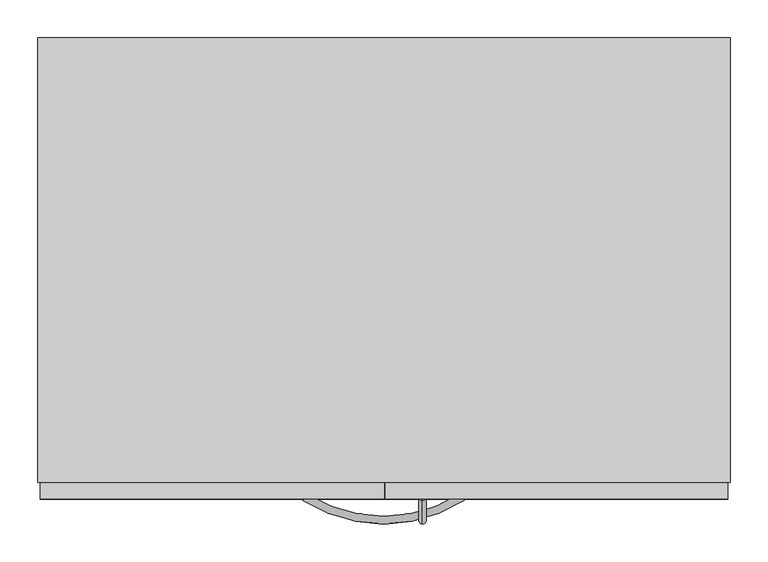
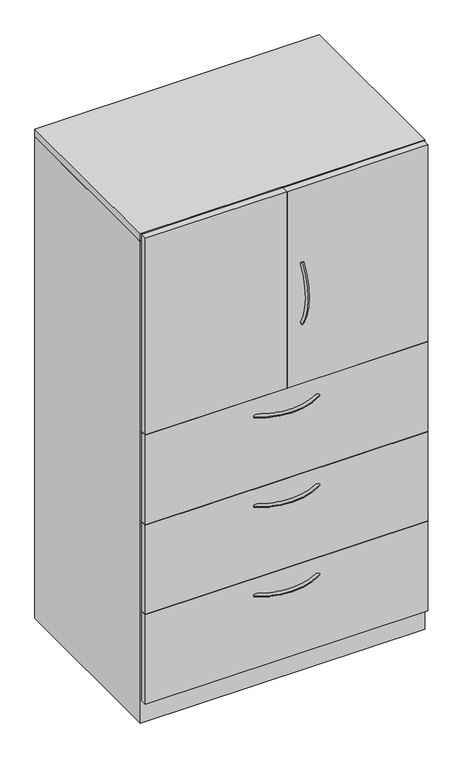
"""IFC4 building model written with IfcOpenShell, lengths in millimetres: furniture geometry, Steelcase - Universal Storage - Cabinet - Combination - Proud Steel : 65 1/2H - Hinged Doors/3 Drawers - 24D x 36W."""

from ifc_helpers import new_model, si_unit, point, frame, origin, place, context, project, spatial, polyline, circle_curve, ellipse_curve, trimmed, outline, extrude, faceted_brep, source, transform, mapped, element, save
from ifc_brep_helpers import plane_surface, revolved_surface, advanced_brep


def furniture_81c67d78(model_context):
    return source(origin(), model_context, "Body", "SolidModel", [
        extrude(outline(polyline([(911.2225413, -479.552), (3.1725353, -479.552), (3.1725353, -457.3261219), (911.2225413, -457.3261219), (911.2225413, -479.552)])), frame((0.0, 0.0, 77.724), z_axis=(0.0, 0.0, 1.0), x_axis=(1.0, 0.0, 0.0)), (0.0, 0.0, 1.0), 303.276),
        extrude(outline(polyline([(911.2225413, -479.552), (3.1725353, -479.552), (3.1725353, -457.3261219), (911.2225413, -457.3261219), (911.2225413, -479.552)])), frame((0.0, 0.0, 382.524), z_axis=(0.0, 0.0, 1.0), x_axis=(1.0, 0.0, 0.0)), (0.0, 0.0, 1.0), 303.276),
        extrude(outline(polyline([(911.2225413, -479.552), (3.1725353, -479.552), (3.1725353, -457.3261219), (911.2225413, -457.3261219), (911.2225413, -479.552)])), frame((0.0, 0.0, 687.3240349), z_axis=(0.0, 0.0, 1.0), x_axis=(1.0, 0.0, 0.0)), (0.0, 0.0, 1.0), 303.2759651),
        extrude(outline(polyline([(457.2, -479.552), (3.1725353, -479.552), (3.1725353, -457.3261219), (457.2, -457.3261219), (457.2, -479.552)])), frame((0.0, 0.0, 992.5062596), z_axis=(0.0, 0.0, 1.0), x_axis=(1.0, 0.0, 0.0)), (0.0, 0.0, 1.0), 668.02),
        extrude(outline(polyline([(911.2225413, -479.552), (458.7239992, -479.552), (458.7239992, -457.3261219), (911.2225413, -457.3261219), (911.2225413, -479.552)])), frame((0.0, 0.0, 992.5062596), z_axis=(0.0, 0.0, 1.0), x_axis=(1.0, 0.0, 0.0)), (0.0, 0.0, 1.0), 668.02),
        advanced_brep(
        [(507.9682496, -481.5705994, 1404.643666), (507.9682496, -473.0108019, 1399.1705073), (507.9682496, -481.1337636, 1192.3367456), (507.9682496, -472.5965612, 1197.8450825)],
        [
            (0, 1, circle_curve(frame((507.9682496, -477.2907007, 1401.9070866), z_axis=(0.0, 0.5386967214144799, 0.842499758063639), x_axis=(0.0, 0.842499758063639, -0.5386967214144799)), 5.08)),
            (1, 0, circle_curve(frame((507.9682496, -477.2907007, 1401.9070866), z_axis=(0.0, 0.5386967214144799, 0.842499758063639), x_axis=(0.0, 0.842499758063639, -0.5386967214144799)), 5.08)),
            (2, 3, circle_curve(frame((507.9682496, -476.8651624, 1195.0909141), z_axis=(0.0, 0.5421591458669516, -0.8402758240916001), x_axis=(0.0, 0.8402758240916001, 0.5421591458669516)), 5.08)),
            (3, 2, circle_curve(frame((507.9682496, -476.8651624, 1195.0909141), z_axis=(0.0, 0.5421591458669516, -0.8402758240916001), x_axis=(0.0, 0.8402758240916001, 0.5421591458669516)), 5.08)),
            (3, 1, circle_curve(frame((507.9682496, -316.0827352, 1298.8302589), z_axis=(-1.0, 0.0, 0.0), x_axis=(0.0, -0.8424997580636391, 0.5386967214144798)), 186.2648211)),
            (0, 2, circle_curve(frame((507.9682496, -316.0827352, 1298.8302589), z_axis=(1.0, 0.0, 0.0), x_axis=(0.0, -0.8424997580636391, 0.5386967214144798)), 196.4248211)),
        ],
        [
            plane_surface(frame((508.7619996, -476.6365286, 1401.4888072), z_axis=(0.0, 0.5386967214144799, 0.8424997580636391), x_axis=(1.0, 0.0, 0.0))),
            plane_surface(frame((508.7619996, -476.2127171, 1195.511882), z_axis=(0.0, 0.5421591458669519, -0.8402758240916), x_axis=(1.0, 0.0, 0.0))),
            revolved_surface(trimmed(ellipse_curve(frame((507.9682496, -477.2907007, 1401.9070866), z_axis=(0.0, 0.5386967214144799, 0.842499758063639), x_axis=(0.0, 0.842499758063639, -0.5386967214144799)), 5.08, 5.08), [point((507.9682496, -481.5705994, 1404.643666))], [point((507.9682496, -473.0108019, 1399.1705073))], True, "CARTESIAN"), (508.7619996, -316.0827352, 1298.8302589), (1.0, 0.0, 0.0)),
            revolved_surface(trimmed(ellipse_curve(frame((507.9682496, -477.2907007, 1401.9070866), z_axis=(0.0, 0.5386967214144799, 0.842499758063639), x_axis=(0.0, 0.842499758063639, -0.5386967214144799)), 5.08, 5.08), [point((507.9682496, -473.0108019, 1399.1705073))], [point((507.9682496, -481.5705994, 1404.643666))], True, "CARTESIAN"), (508.7619996, -316.0827352, 1298.8302589), (1.0, 0.0, 0.0)),
        ],
        [
            (0, [[1, 2]]),
            (1, [[3, 4]]),
            (2, [[5, -1, 6, -4]]),
            (3, [[-6, -2, -5, -3]]),
        ],
    ),
        advanced_brep(
        [(350.6245932, -481.5705994, 323.56425), (356.0977519, -473.0108019, 323.56425), (562.9315136, -481.1337636, 323.56425), (557.4231767, -472.5965612, 323.56425)],
        [
            (0, 1, circle_curve(frame((353.3611726, -477.2907007, 323.56425), z_axis=(-0.8424997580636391, 0.5386967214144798, 0.0), x_axis=(0.5386967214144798, 0.8424997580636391, 0.0)), 5.08)),
            (1, 0, circle_curve(frame((353.3611726, -477.2907007, 323.56425), z_axis=(-0.8424997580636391, 0.5386967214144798, 0.0), x_axis=(0.5386967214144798, 0.8424997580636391, 0.0)), 5.08)),
            (2, 3, circle_curve(frame((560.1773452, -476.8651624, 323.56425), z_axis=(0.8402758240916, 0.5421591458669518, 0.0), x_axis=(-0.5421591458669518, 0.8402758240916, 0.0)), 5.08)),
            (3, 2, circle_curve(frame((560.1773452, -476.8651624, 323.56425), z_axis=(0.8402758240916, 0.5421591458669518, 0.0), x_axis=(-0.5421591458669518, 0.8402758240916, 0.0)), 5.08)),
            (3, 1, circle_curve(frame((456.4380004, -316.0827352, 323.56425), z_axis=(0.0, 0.0, -1.0), x_axis=(-0.5386967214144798, -0.8424997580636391, 0.0)), 186.2648211)),
            (0, 2, circle_curve(frame((456.4380004, -316.0827352, 323.56425), z_axis=(0.0, 0.0, 1.0), x_axis=(-0.5386967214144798, -0.8424997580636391, 0.0)), 196.4248211)),
        ],
        [
            plane_surface(frame((353.7794521, -476.6365286, 324.358), z_axis=(-0.8424997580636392, 0.5386967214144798, 0.0), x_axis=(0.0, 0.0, 1.0))),
            plane_surface(frame((559.7563772, -476.2127171, 324.358), z_axis=(0.8402758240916, 0.5421591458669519, 0.0), x_axis=(0.0, 0.0, 1.0))),
            revolved_surface(trimmed(ellipse_curve(frame((353.3611726, -477.2907007, 323.56425), z_axis=(-0.8424997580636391, 0.5386967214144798, 0.0), x_axis=(0.5386967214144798, 0.8424997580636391, 0.0)), 5.08, 5.08), [point((350.6245932, -481.5705994, 323.56425))], [point((356.0977519, -473.0108019, 323.56425))], True, "CARTESIAN"), (456.4380004, -316.0827352, 324.358), (0.0, 0.0, 1.0)),
            revolved_surface(trimmed(ellipse_curve(frame((353.3611726, -477.2907007, 323.56425), z_axis=(-0.8424997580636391, 0.5386967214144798, 0.0), x_axis=(0.5386967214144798, 0.8424997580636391, 0.0)), 5.08, 5.08), [point((356.0977519, -473.0108019, 323.56425))], [point((350.6245932, -481.5705994, 323.56425))], True, "CARTESIAN"), (456.4380004, -316.0827352, 324.358), (0.0, 0.0, 1.0)),
        ],
        [
            (0, [[1, 2]]),
            (1, [[3, 4]]),
            (2, [[5, -1, 6, -4]]),
            (3, [[-6, -2, -5, -3]]),
        ],
    ),
        advanced_brep(
        [(350.6245932, -481.5705994, 627.85625), (356.0977519, -473.0108019, 627.85625), (562.9315136, -481.1337636, 627.85625), (557.4231767, -472.5965612, 627.85625)],
        [
            (0, 1, circle_curve(frame((353.3611726, -477.2907007, 627.85625), z_axis=(-0.8424997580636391, 0.5386967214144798, 0.0), x_axis=(0.5386967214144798, 0.8424997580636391, 0.0)), 5.08)),
            (1, 0, circle_curve(frame((353.3611726, -477.2907007, 627.85625), z_axis=(-0.8424997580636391, 0.5386967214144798, 0.0), x_axis=(0.5386967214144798, 0.8424997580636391, 0.0)), 5.08)),
            (2, 3, circle_curve(frame((560.1773452, -476.8651624, 627.85625), z_axis=(0.8402758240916, 0.5421591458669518, 0.0), x_axis=(-0.5421591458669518, 0.8402758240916, 0.0)), 5.08)),
            (3, 2, circle_curve(frame((560.1773452, -476.8651624, 627.85625), z_axis=(0.8402758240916, 0.5421591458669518, 0.0), x_axis=(-0.5421591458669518, 0.8402758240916, 0.0)), 5.08)),
            (3, 1, circle_curve(frame((456.4380004, -316.0827352, 627.85625), z_axis=(0.0, 0.0, -1.0), x_axis=(-0.5386967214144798, -0.8424997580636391, 0.0)), 186.2648211)),
            (0, 2, circle_curve(frame((456.4380004, -316.0827352, 627.85625), z_axis=(0.0, 0.0, 1.0), x_axis=(-0.5386967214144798, -0.8424997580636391, 0.0)), 196.4248211)),
        ],
        [
            plane_surface(frame((353.7794521, -476.6365286, 628.65), z_axis=(-0.8424997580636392, 0.5386967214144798, 0.0), x_axis=(0.0, 0.0, 1.0))),
            plane_surface(frame((559.7563772, -476.2127171, 628.65), z_axis=(0.8402758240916, 0.5421591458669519, 0.0), x_axis=(0.0, 0.0, 1.0))),
            revolved_surface(trimmed(ellipse_curve(frame((353.3611726, -477.2907007, 627.85625), z_axis=(-0.8424997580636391, 0.5386967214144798, 0.0), x_axis=(0.5386967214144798, 0.8424997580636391, 0.0)), 5.08, 5.08), [point((350.6245932, -481.5705994, 627.85625))], [point((356.0977519, -473.0108019, 627.85625))], True, "CARTESIAN"), (456.4380004, -316.0827352, 628.65), (0.0, 0.0, 1.0)),
            revolved_surface(trimmed(ellipse_curve(frame((353.3611726, -477.2907007, 627.85625), z_axis=(-0.8424997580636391, 0.5386967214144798, 0.0), x_axis=(0.5386967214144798, 0.8424997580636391, 0.0)), 5.08, 5.08), [point((356.0977519, -473.0108019, 627.85625))], [point((350.6245932, -481.5705994, 627.85625))], True, "CARTESIAN"), (456.4380004, -316.0827352, 628.65), (0.0, 0.0, 1.0)),
        ],
        [
            (0, [[1, 2]]),
            (1, [[3, 4]]),
            (2, [[5, -1, 6, -4]]),
            (3, [[-6, -2, -5, -3]]),
        ],
    ),
        advanced_brep(
        [(350.6245932, -481.5705994, 932.65625), (356.0977519, -473.0108019, 932.65625), (562.9315136, -481.1337636, 932.65625), (557.4231767, -472.5965612, 932.65625)],
        [
            (0, 1, circle_curve(frame((353.3611726, -477.2907007, 932.65625), z_axis=(-0.8424997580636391, 0.5386967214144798, 0.0), x_axis=(0.5386967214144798, 0.8424997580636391, 0.0)), 5.08)),
            (1, 0, circle_curve(frame((353.3611726, -477.2907007, 932.65625), z_axis=(-0.8424997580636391, 0.5386967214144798, 0.0), x_axis=(0.5386967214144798, 0.8424997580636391, 0.0)), 5.08)),
            (2, 3, circle_curve(frame((560.1773452, -476.8651624, 932.65625), z_axis=(0.8402758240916, 0.5421591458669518, 0.0), x_axis=(-0.5421591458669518, 0.8402758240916, 0.0)), 5.08)),
            (3, 2, circle_curve(frame((560.1773452, -476.8651624, 932.65625), z_axis=(0.8402758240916, 0.5421591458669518, 0.0), x_axis=(-0.5421591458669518, 0.8402758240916, 0.0)), 5.08)),
            (3, 1, circle_curve(frame((456.4380004, -316.0827352, 932.65625), z_axis=(0.0, 0.0, -1.0), x_axis=(-0.5386967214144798, -0.8424997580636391, 0.0)), 186.2648211)),
            (0, 2, circle_curve(frame((456.4380004, -316.0827352, 932.65625), z_axis=(0.0, 0.0, 1.0), x_axis=(-0.5386967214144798, -0.8424997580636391, 0.0)), 196.4248211)),
        ],
        [
            plane_surface(frame((353.7794521, -476.6365286, 933.45), z_axis=(-0.8424997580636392, 0.5386967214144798, 0.0), x_axis=(0.0, 0.0, 1.0))),
            plane_surface(frame((559.7563772, -476.2127171, 933.45), z_axis=(0.8402758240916, 0.5421591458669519, 0.0), x_axis=(0.0, 0.0, 1.0))),
            revolved_surface(trimmed(ellipse_curve(frame((353.3611726, -477.2907007, 932.65625), z_axis=(-0.8424997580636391, 0.5386967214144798, 0.0), x_axis=(0.5386967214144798, 0.8424997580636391, 0.0)), 5.08, 5.08), [point((350.6245932, -481.5705994, 932.65625))], [point((356.0977519, -473.0108019, 932.65625))], True, "CARTESIAN"), (456.4380004, -316.0827352, 933.45), (0.0, 0.0, 1.0)),
            revolved_surface(trimmed(ellipse_curve(frame((353.3611726, -477.2907007, 932.65625), z_axis=(-0.8424997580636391, 0.5386967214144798, 0.0), x_axis=(0.5386967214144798, 0.8424997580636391, 0.0)), 5.08, 5.08), [point((356.0977519, -473.0108019, 932.65625))], [point((350.6245932, -481.5705994, 932.65625))], True, "CARTESIAN"), (456.4380004, -316.0827352, 933.45), (0.0, 0.0, 1.0)),
        ],
        [
            (0, [[1, 2]]),
            (1, [[3, 4]]),
            (2, [[5, -1, 6, -4]]),
            (3, [[-6, -2, -5, -3]]),
        ],
    ),
        faceted_brep([(25.4000008, -457.3261219, 76.2), (889.0000242, -457.3261219, 76.2), (889.0000242, 104.6479992, 76.2), (25.4000008, 104.6479992, 76.2), (914.4, 130.048, 0.0), (914.4, -457.3261219, 0.0), (0.0, -457.3261219, 0.0), (0.0, 130.048, 0.0), (0.0, 130.048, 1636.776), (914.4, 130.048, 1636.776), (0.0, -457.3261219, 1636.776), (914.4, -457.3261219, 1636.776), (889.0000242, -457.3261219, 1636.776), (25.4000008, -457.3261219, 1636.776), (889.0000242, 104.6479992, 1636.776), (25.4000008, 104.6479992, 1636.776)], [[[0, 1, 2, 3]], [[4, 5, 6, 7]], [[4, 7, 8, 9]], [[8, 7, 6, 10]], [[10, 6, 5, 11, 12, 1, 0, 13]], [[11, 5, 4, 9]], [[14, 12, 11, 9, 8, 10, 13, 15]], [[12, 14, 2, 1]], [[15, 13, 0, 3]], [[14, 15, 3, 2]]]),
        extrude(outline(polyline([(914.4, 130.048), (914.4, -457.3261219), (0.0, -457.3261219), (0.0, 130.048), (914.4, 130.048)])), frame((0.0, 0.0, 1638.2999516), z_axis=(0.0, 0.0, 1.0), x_axis=(1.0, 0.0, 0.0)), (0.0, 0.0, 1.0), 25.4000484),
    ])


if __name__ == "__main__":
    model = new_model("IFC4")
    model_context = context("Model", 3, world=origin())
    ifc_project = project(units=[si_unit("LENGTHUNIT", "METRE", prefix="MILLI")], contexts=[model_context])
    site = spatial("IfcSite", under=ifc_project)
    building = spatial("IfcBuilding", under=site)
    placement = place(None, origin())
    furniture_shape = furniture_81c67d78(model_context)
    element("IfcFurniture", 1, ObjectType="Steelcase - Universal Storage - Cabinet - Combination - Proud Steel : 65 1/2H - Hinged Doors/3 Drawers - 24D x 36W", at=placement, inside=building, context=model_context, shape_type="MappedRepresentation", body=[
        mapped(furniture_shape, transform((0.0, 0.0, 0.0), x_axis=(1.0, 0.0, 0.0), y_axis=(0.0, 1.0, 0.0), z_axis=(0.0, 0.0, 1.0))),
    ])
    save(model, "model.ifc")
